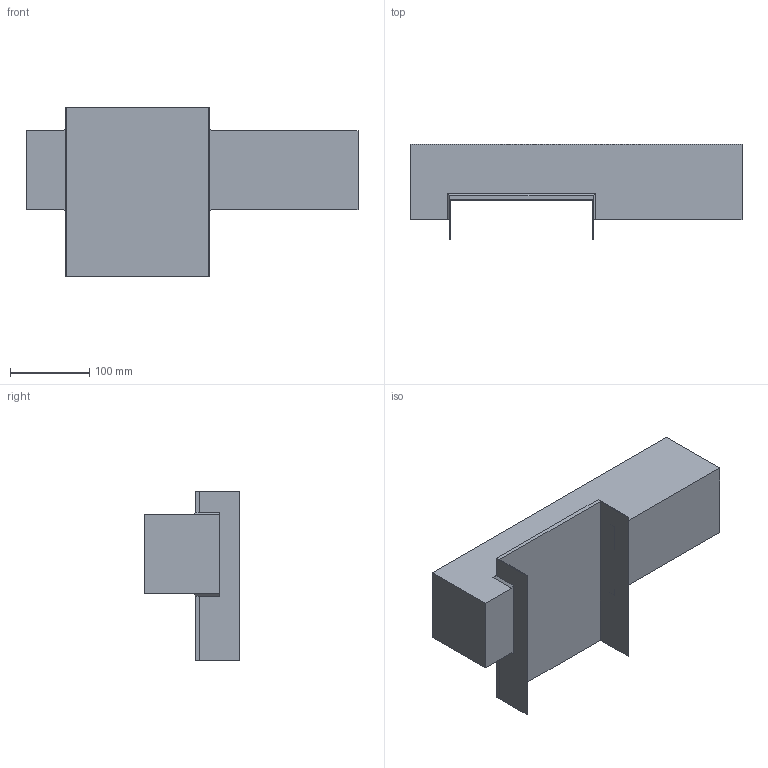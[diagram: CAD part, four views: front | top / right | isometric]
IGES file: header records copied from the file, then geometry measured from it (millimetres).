
Start section: START RECORD GO HERE.
Global section: file name: z-spring.igs; native system: IBM CATIA IGES - CATIA Version 5 Release 12 ; preprocessor: CATIA Version 5 Release 12 ; author: mta; organization: MONTREUIL; date: 20031219.135514; units: millimetre
Bounding box: 420 x 120 x 215 mm (x, y, z)
Surface area: 254393.9 mm2 (no closed solid volume)
Topology: 0 solids, 0 shells, 36 faces, 412 edges, 412 vertices
Faces by surface type: plane 28, bspline 8
